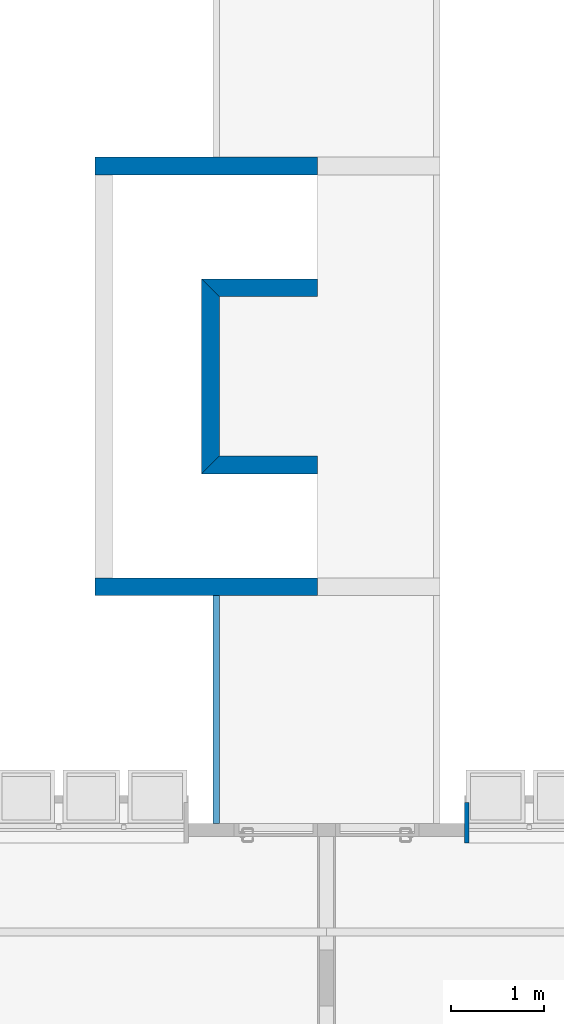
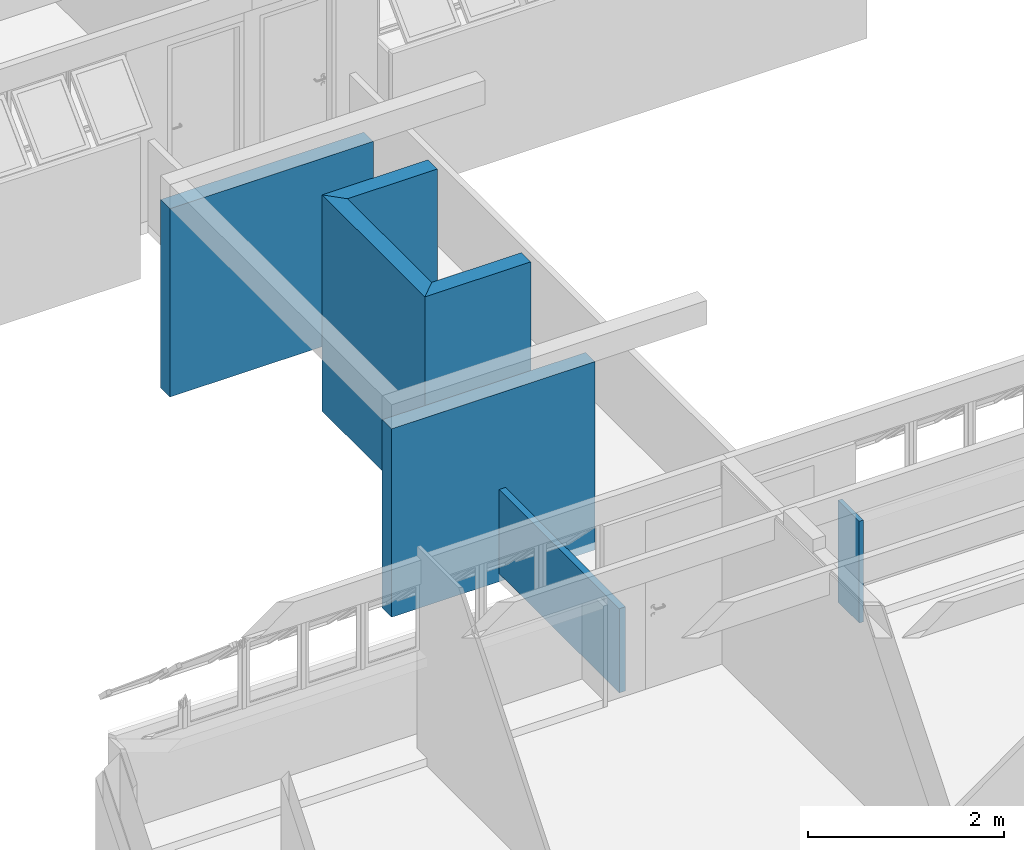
# One storey, part 14 of 37: 7 walls.
"""IFC2X3 building model written with IfcOpenShell, lengths in millimetres."""

from ifc_helpers import new_model, entity, si_unit, converted_unit, derived_unit, money_unit, direction, frame, origin_with_axes, place, context, subcontext, project, spatial, polyline, outline, extrude, material, layer, layer_set, layer_usage, type_object, element, save


model = new_model("IFC2X3")

# Units and contexts
model_context = context("Model", 3, precision=0.01, world=origin_with_axes(), true_north=direction((0.0, 1.0)))
body_context = subcontext(model_context, "Body", "Model", "MODEL_VIEW")
ifc_project = project(units=[si_unit("LENGTHUNIT", "METRE", prefix="MILLI"), si_unit("AREAUNIT", "SQUARE_METRE"), si_unit("VOLUMEUNIT", "CUBIC_METRE"), converted_unit("PLANEANGLEUNIT", "DEGREE", entity("IfcPlaneAngleMeasure", 0.0174532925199), si_unit("PLANEANGLEUNIT", "RADIAN"), dimensions=[0, 0, 0, 0, 0, 0, 0]), money_unit("USD"), converted_unit("TIMEUNIT", "Year", entity("IfcTimeMeasure", 31556926.0), si_unit("TIMEUNIT", "SECOND"), dimensions=[0, 0, 1, 0, 0, 0, 0]), si_unit("MASSUNIT", "GRAM", prefix="KILO"), si_unit("THERMODYNAMICTEMPERATUREUNIT", "DEGREE_CELSIUS"), si_unit("LUMINOUSINTENSITYUNIT", "LUMEN"), si_unit("ENERGYUNIT", "JOULE", prefix="MEGA"), derived_unit("THERMALCONDUCTANCEUNIT", [(si_unit("POWERUNIT", "WATT"), 1), (si_unit("LENGTHUNIT", "METRE"), -1), (si_unit("THERMODYNAMICTEMPERATUREUNIT", "KELVIN"), -1)]), derived_unit("SPECIFICHEATCAPACITYUNIT", [(si_unit("ENERGYUNIT", "JOULE"), 1), (si_unit("MASSUNIT", "GRAM", prefix="KILO"), -1), (si_unit("THERMODYNAMICTEMPERATUREUNIT", "KELVIN"), -1)]), derived_unit("MASSDENSITYUNIT", [(si_unit("MASSUNIT", "GRAM", prefix="KILO"), 1), (si_unit("VOLUMEUNIT", "CUBIC_METRE"), -1)])], contexts=[model_context])

# Site, building, storey
site_placement = place(None, origin_with_axes())
site = spatial("IfcSite", under=ifc_project, at=site_placement, Name="Local", CompositionType="ELEMENT")
building_placement = place(site_placement, origin_with_axes())
building = spatial("IfcBuilding", under=site, at=building_placement, Name="Construção", CompositionType="ELEMENT")
storey_placement = place(building_placement, frame((0.0, 0.0, 5300.0), z_axis=(0.0, 0.0, 1.0), x_axis=(1.0, 0.0, 0.0)))
storey = spatial("IfcBuildingStorey", under=building, at=storey_placement, Name="Terceiro Pavimento", CompositionType="ELEMENT", Elevation=5300.0)

# Walls
ifc_material_1 = material(Name="GENÉRICO - VEDAÇÃO EXTERNA")
ifc_layer_1 = layer(ifc_material_1, 190.0, ventilated="UNKNOWN")
ifc_layer_set_1 = layer_set([ifc_layer_1], Name="GENÉRICO - VEDAÇÃO EXTERNA 190")
ifc_layer_usage_1 = layer_usage(ifc_layer_set_1, "AXIS2", "NEGATIVE", 0.0)
wall_type_1 = type_object("IfcWallType", Name="GENÉRICO - VEDAÇÃO EXTERNA 190", PredefinedType="NOTDEFINED")
wall_1_placement = place(storey_placement, frame((4890.0, 15440.0, -150.0), z_axis=(0.0, 0.0, 1.0), x_axis=(1.0, 0.0, 0.0)))
element("IfcWallStandardCase", 1, at=wall_1_placement, inside=storey, type_object=wall_type_1, material=ifc_layer_usage_1, Name="CIRC3-PAREDE-030", context=body_context, shape_type="SweptSolid", body=[
    extrude(outline(polyline([(0.0, -190.0), (2400.0, -190.0), (2400.0, 0.0), (0.0, 0.0), (0.0, -190.0)])), origin_with_axes(), (0.0, 0.0, 1.0), 2350.0),
])
ifc_layer_usage_2 = layer_usage(ifc_layer_set_1, "AXIS2", "NEGATIVE", 0.0)
wall_2_placement = place(storey_placement, frame((4890.0, 10910.0, -150.0), z_axis=(0.0, 0.0, 1.0), x_axis=(1.0, 0.0, 0.0)))
element("IfcWallStandardCase", 2, at=wall_2_placement, inside=storey, type_object=wall_type_1, material=ifc_layer_usage_2, Name="CIRC3-PAREDE-031", context=body_context, shape_type="SweptSolid", body=[
    extrude(outline(polyline([(0.0, -190.0), (2400.0, -190.0), (2400.0, 0.0), (0.0, 0.0), (0.0, -190.0)])), origin_with_axes(), (0.0, 0.0, 1.0), 2350.0),
])
ifc_material_2 = material(Name="Concreto Armado Moldado in Loco - Estrutural")
ifc_layer_2 = layer(ifc_material_2, 190.0, ventilated="UNKNOWN")
ifc_layer_set_2 = layer_set([ifc_layer_2], Name="Concreto Armado Moldado in Loco - Estrutural 190")
ifc_layer_usage_3 = layer_usage(ifc_layer_set_2, "AXIS2", "NEGATIVE", 0.0)
wall_type_2 = type_object("IfcWallType", Name="Concreto Armado Moldado in Loco - Estrutural 190", PredefinedType="NOTDEFINED")
wall_3_placement = place(storey_placement, frame((6230.0, 12220.0, -50.0), z_axis=(0.0, 0.0, 1.0), x_axis=(1.0, 0.0, 0.0)))
element("IfcWallStandardCase", 3, at=wall_3_placement, inside=storey, type_object=wall_type_2, material=ifc_layer_usage_3, Name="CIRC3-PAREDE-033", context=body_context, shape_type="SweptSolid", body=[
    extrude(outline(polyline([(-190.0, -190.0), (1060.0, -190.0), (1060.0, 0.0), (0.0, 0.0), (-190.0, -190.0)])), origin_with_axes(), (0.0, 0.0, 1.0), 2700.0),
])
ifc_layer_usage_4 = layer_usage(ifc_layer_set_2, "AXIS2", "NEGATIVE", 0.0)
wall_4_placement = place(storey_placement, frame((7290.0, 13940.0, -50.0), z_axis=(0.0, 0.0, 1.0), x_axis=(-1.0, 0.0, 0.0)))
element("IfcWallStandardCase", 4, at=wall_4_placement, inside=storey, type_object=wall_type_2, material=ifc_layer_usage_4, Name="CIRC3-PAREDE-034", context=body_context, shape_type="SweptSolid", body=[
    extrude(outline(polyline([(0.0, -190.0), (1250.0, -190.0), (1060.0, 0.0), (0.0, 0.0), (0.0, -190.0)])), origin_with_axes(), (0.0, 0.0, 1.0), 2700.0),
])
ifc_layer_usage_5 = layer_usage(ifc_layer_set_2, "AXIS2", "NEGATIVE", 0.0)
wall_5_placement = place(storey_placement, frame((6230.0, 13940.0, -50.0), z_axis=(0.0, 0.0, 1.0), x_axis=(0.0, -1.0, 0.0)))
element("IfcWallStandardCase", 5, at=wall_5_placement, inside=storey, type_object=wall_type_2, material=ifc_layer_usage_5, Name="CIRC3-PAREDE-032", context=body_context, shape_type="SweptSolid", body=[
    extrude(outline(polyline([(-190.0, -190.0), (1910.0, -190.0), (1720.0, 0.0), (0.0, 0.0), (-190.0, -190.0)])), origin_with_axes(), (0.0, 0.0, 1.0), 2700.0),
])
ifc_layer_3 = layer(ifc_material_2, 50.0, ventilated="UNKNOWN")
ifc_layer_set_3 = layer_set([ifc_layer_3], Name="Concreto Armado Moldado in Loco - Estrutural 50")
ifc_layer_usage_6 = layer_usage(ifc_layer_set_3, "AXIS2", "NEGATIVE", 50.0)
wall_type_3 = type_object("IfcWallType", Name="Concreto Armado Moldado in Loco - Estrutural 50", PredefinedType="NOTDEFINED")
wall_6_placement = place(storey_placement, frame((8920.0, 8054.99999866, 0.0), z_axis=(0.0, 0.0, 1.0), x_axis=(0.0, 1.0, 0.0)))
element("IfcWallStandardCase", 6, at=wall_6_placement, inside=storey, type_object=wall_type_3, material=ifc_layer_usage_6, Name="APTO10-PAREDE-016", context=body_context, shape_type="SweptSolid", body=[
    extrude(outline(polyline([(0.0, 0.0), (435.0, 0.0), (435.0, 50.0), (0.0, 50.0), (0.0, 0.0)])), origin_with_axes(), (0.0, 0.0, 1.0), 1270.0),
])
ifc_layer_4 = layer(ifc_material_1, 75.0, ventilated="UNKNOWN")
ifc_layer_set_4 = layer_set([ifc_layer_4], Name="GENÉRICO - VEDAÇÃO EXTERNA 75")
ifc_layer_usage_7 = layer_usage(ifc_layer_set_4, "AXIS2", "NEGATIVE", 0.0)
wall_type_4 = type_object("IfcWallType", Name="GENÉRICO - VEDAÇÃO EXTERNA 75", PredefinedType="NOTDEFINED")
wall_7_placement = place(storey_placement, frame((6160.0, 8265.0, -50.0), z_axis=(0.0, 0.0, 1.0), x_axis=(0.0, 1.0, 0.0)))
element("IfcWallStandardCase", 7, at=wall_7_placement, inside=storey, type_object=wall_type_4, material=ifc_layer_usage_7, Name="CIRC3-PAREDE-035", context=body_context, shape_type="SweptSolid", body=[
    extrude(outline(polyline([(0.0, -75.0), (2455.0, -75.0), (2455.0, 0.0), (0.0, 0.0), (0.0, -75.0)])), origin_with_axes(), (0.0, 0.0, 1.0), 1050.0),
])

save(model, "model.ifc")
